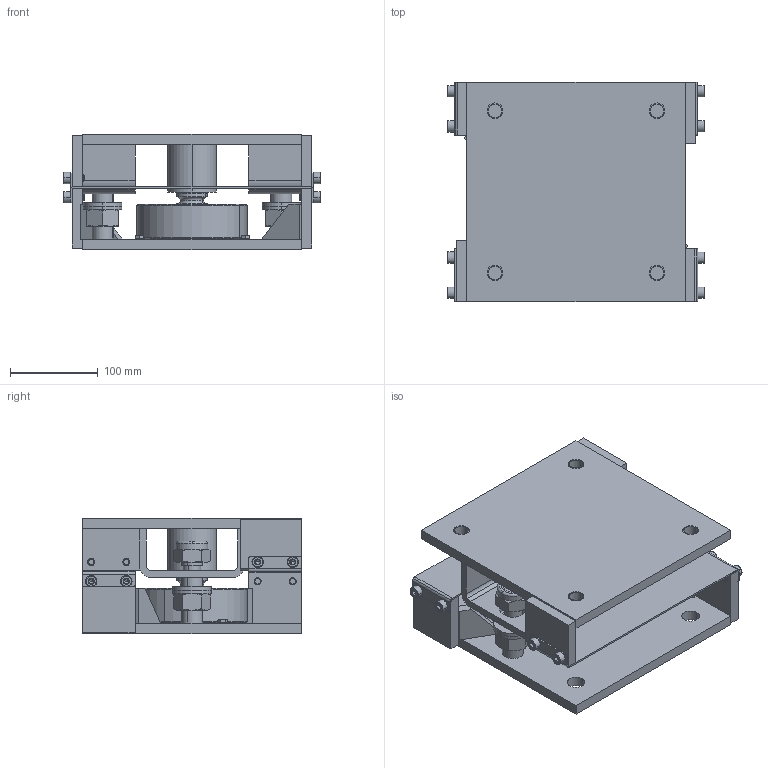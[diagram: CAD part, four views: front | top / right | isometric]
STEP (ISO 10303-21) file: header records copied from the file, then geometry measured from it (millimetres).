
FILE_DESCRIPTION((''),'1');
FILE_NAME('LMLAW_30000_kg.step','2020-05-18T09:58:22',(''),(''),'','','');
FILE_SCHEMA(('AUTOMOTIVE_DESIGN { 1 0 10303 214 1 1 1 1 }'));
Products named in the file (19): LMLAW plate 01; LMLAW base 01; LMLAW part 02; LMLAW plate 02; LMLAW part 03; LMLAW 30000_kg; LMLAW part 04; LMLAW load cell 01; LMLAW body 01; LMLAW cable gland 01; LMLAW plate 03; LMLAW base 03; LMLAW plate 04; LMLAW pin 01; LMLAW screw 01; LMLAW screw 02; LMLAW nut 01; LMLAW screw 03; LMLAW nut 02
Assembly tree (37 placements, depth 3):
  LMLAW 30000_kg
    LMLAW plate 01
      LMLAW base 01
      LMLAW part 02  x2
      LMLAW plate 02  x2
      LMLAW part 03
    LMLAW part 04  x2
    LMLAW load cell 01
      LMLAW body 01
      LMLAW cable gland 01
    LMLAW plate 03
      LMLAW base 03
      LMLAW plate 04  x2
      LMLAW pin 01  x2
    LMLAW screw 01  x3
    LMLAW screw 02  x8
    LMLAW nut 01  x2
    LMLAW screw 03  x4
    LMLAW nut 02  x2
Bounding box: 294 x 250 x 132 mm (x, y, z)
Volume: 2755695.5 mm3; surface area: 600422.4 mm2
Topology: 36 solids, 57 shells, 859 faces, 2091 edges, 1334 vertices
Faces by surface type: plane 287, cylinder 286, cone 216, torus 68, sphere 2
Entity records: 12205 total; most frequent: DIRECTION 2164, CARTESIAN_POINT 2121, ORIENTED_EDGE 1786, EDGE_CURVE 923, AXIS2_PLACEMENT_3D 879, VERTEX_POINT 585, EDGE_LOOP 458, CIRCLE 437
